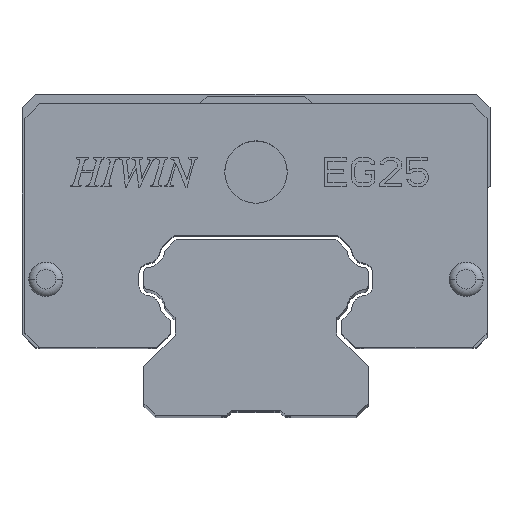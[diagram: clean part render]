
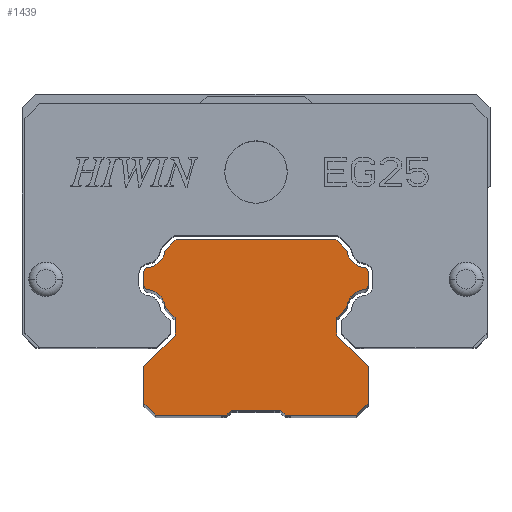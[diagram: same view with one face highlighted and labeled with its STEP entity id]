
A CAD part, top view. The second image highlights one B-rep face of the part: STEP entity #1439.
In plain terms, the highlighted planar face has unit normal (0, 0, 1).
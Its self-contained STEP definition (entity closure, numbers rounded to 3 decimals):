
#279=CARTESIAN_POINT('',(11.,-3.365,60.));
#280=DIRECTION('',(0.,0.,-1.));
#281=DIRECTION('',(0.12,0.993,0.));
#282=AXIS2_PLACEMENT_3D('',#279,#280,#281);
#284=DIRECTION('',(0.,-1.,0.));
#285=VECTOR('',#284,1.289);
#286=CARTESIAN_POINT('',(11.5,-3.365,60.));
#287=LINE('',#286,#285);
#288=CARTESIAN_POINT('',(11.,-4.654,60.));
#289=DIRECTION('',(0.,0.,-1.));
#290=DIRECTION('',(1.,0.,0.));
#291=AXIS2_PLACEMENT_3D('',#288,#289,#290);
#293=CARTESIAN_POINT('',(11.3,-7.136,60.));
#294=DIRECTION('',(0.,0.,1.));
#295=DIRECTION('',(-0.12,0.993,0.));
#296=AXIS2_PLACEMENT_3D('',#293,#294,#295);
#298=DIRECTION('',(-0.707,-0.707,0.));
#299=VECTOR('',#298,1.421);
#300=CARTESIAN_POINT('',(9.305,-6.995,60.));
#301=LINE('',#300,#299);
#302=DIRECTION('',(0.,-1.,0.));
#303=VECTOR('',#302,1.8);
#304=CARTESIAN_POINT('',(8.3,-8.,60.));
#305=LINE('',#304,#303);
#306=DIRECTION('',(0.707,-0.707,0.));
#307=VECTOR('',#306,4.525);
#308=CARTESIAN_POINT('',(8.3,-9.8,60.));
#309=LINE('',#308,#307);
#310=DIRECTION('',(0.,-1.,0.));
#311=VECTOR('',#310,3.8);
#312=CARTESIAN_POINT('',(11.5,-13.,60.));
#313=LINE('',#312,#311);
#314=DIRECTION('',(-0.707,-0.707,0.));
#315=VECTOR('',#314,1.697);
#316=CARTESIAN_POINT('',(11.5,-16.8,60.));
#317=LINE('',#316,#315);
#318=DIRECTION('',(-1.,0.,0.));
#319=VECTOR('',#318,7.3);
#320=CARTESIAN_POINT('',(10.3,-18.,60.));
#321=LINE('',#320,#319);
#322=DIRECTION('',(-0.707,0.707,0.));
#323=VECTOR('',#322,0.707);
#324=CARTESIAN_POINT('',(3.,-18.,60.));
#325=LINE('',#324,#323);
#326=DIRECTION('',(-1.,0.,0.));
#327=VECTOR('',#326,5.);
#328=CARTESIAN_POINT('',(2.5,-17.5,60.));
#329=LINE('',#328,#327);
#330=DIRECTION('',(-0.707,-0.707,0.));
#331=VECTOR('',#330,0.707);
#332=CARTESIAN_POINT('',(-2.5,-17.5,60.));
#333=LINE('',#332,#331);
#334=DIRECTION('',(-1.,0.,0.));
#335=VECTOR('',#334,7.3);
#336=CARTESIAN_POINT('',(-3.,-18.,60.));
#337=LINE('',#336,#335);
#338=DIRECTION('',(-0.707,0.707,0.));
#339=VECTOR('',#338,1.697);
#340=CARTESIAN_POINT('',(-10.3,-18.,60.));
#341=LINE('',#340,#339);
#342=DIRECTION('',(0.,1.,0.));
#343=VECTOR('',#342,3.8);
#344=CARTESIAN_POINT('',(-11.5,-16.8,60.));
#345=LINE('',#344,#343);
#346=DIRECTION('',(0.707,0.707,0.));
#347=VECTOR('',#346,4.525);
#348=CARTESIAN_POINT('',(-11.5,-13.,60.));
#349=LINE('',#348,#347);
#350=DIRECTION('',(0.,1.,0.));
#351=VECTOR('',#350,1.8);
#352=CARTESIAN_POINT('',(-8.3,-9.8,60.));
#353=LINE('',#352,#351);
#354=DIRECTION('',(-0.707,0.707,0.));
#355=VECTOR('',#354,1.421);
#356=CARTESIAN_POINT('',(-8.3,-8.,60.));
#357=LINE('',#356,#355);
#358=CARTESIAN_POINT('',(-11.3,-7.136,60.));
#359=DIRECTION('',(0.,0.,1.));
#360=DIRECTION('',(0.998,0.07,0.));
#361=AXIS2_PLACEMENT_3D('',#358,#359,#360);
#363=CARTESIAN_POINT('',(-11.,-4.654,60.));
#364=DIRECTION('',(0.,0.,-1.));
#365=DIRECTION('',(-0.12,-0.993,0.));
#366=AXIS2_PLACEMENT_3D('',#363,#364,#365);
#368=DIRECTION('',(0.,1.,0.));
#369=VECTOR('',#368,1.289);
#370=CARTESIAN_POINT('',(-11.5,-4.654,60.));
#371=LINE('',#370,#369);
#372=CARTESIAN_POINT('',(-11.,-3.365,60.));
#373=DIRECTION('',(0.,0.,-1.));
#374=DIRECTION('',(-1.,0.,0.));
#375=AXIS2_PLACEMENT_3D('',#372,#373,#374);
#377=CARTESIAN_POINT('',(-11.3,-0.883,60.));
#378=DIRECTION('',(0.,0.,1.));
#379=DIRECTION('',(0.12,-0.993,0.));
#380=AXIS2_PLACEMENT_3D('',#377,#378,#379);
#382=DIRECTION('',(0.707,0.707,0.));
#383=VECTOR('',#382,1.581);
#384=CARTESIAN_POINT('',(-9.314,-1.118,60.));
#385=LINE('',#384,#383);
#386=DIRECTION('',(1.,0.,0.));
#387=VECTOR('',#386,16.392);
#388=CARTESIAN_POINT('',(-8.196,0.,60.));
#389=LINE('',#388,#387);
#390=DIRECTION('',(0.707,-0.707,0.));
#391=VECTOR('',#390,1.581);
#392=CARTESIAN_POINT('',(8.196,0.,60.));
#393=LINE('',#392,#391);
#394=CARTESIAN_POINT('',(11.3,-0.883,60.));
#395=DIRECTION('',(0.,0.,1.));
#396=DIRECTION('',(-0.993,-0.118,0.));
#397=AXIS2_PLACEMENT_3D('',#394,#395,#396);
#869=CARTESIAN_POINT('',(-8.3,-9.8,60.));
#870=VERTEX_POINT('',#869);
#871=CARTESIAN_POINT('',(-11.5,-13.,60.));
#872=VERTEX_POINT('',#871);
#873=CARTESIAN_POINT('',(-8.3,-8.,60.));
#874=VERTEX_POINT('',#873);
#875=CARTESIAN_POINT('',(-9.305,-6.995,60.));
#876=VERTEX_POINT('',#875);
#877=CARTESIAN_POINT('',(-11.06,-5.15,60.));
#878=VERTEX_POINT('',#877);
#879=CARTESIAN_POINT('',(-11.5,-4.654,60.));
#880=VERTEX_POINT('',#879);
#881=CARTESIAN_POINT('',(-11.5,-3.365,60.));
#882=VERTEX_POINT('',#881);
#883=CARTESIAN_POINT('',(-11.06,-2.868,60.));
#884=VERTEX_POINT('',#883);
#885=CARTESIAN_POINT('',(-9.314,-1.118,60.));
#886=VERTEX_POINT('',#885);
#887=CARTESIAN_POINT('',(-8.196,0.,60.));
#888=VERTEX_POINT('',#887);
#889=CARTESIAN_POINT('',(8.196,0.,60.));
#890=VERTEX_POINT('',#889);
#891=CARTESIAN_POINT('',(2.5,-17.5,60.));
#892=CARTESIAN_POINT('',(-2.5,-17.5,60.));
#893=VERTEX_POINT('',#891);
#894=VERTEX_POINT('',#892);
#895=CARTESIAN_POINT('',(-3.,-18.,60.));
#896=VERTEX_POINT('',#895);
#897=CARTESIAN_POINT('',(-10.3,-18.,60.));
#898=VERTEX_POINT('',#897);
#899=CARTESIAN_POINT('',(10.3,-18.,60.));
#900=CARTESIAN_POINT('',(3.,-18.,60.));
#901=VERTEX_POINT('',#899);
#902=VERTEX_POINT('',#900);
#903=CARTESIAN_POINT('',(11.06,-2.868,60.));
#904=CARTESIAN_POINT('',(11.5,-3.365,60.));
#905=VERTEX_POINT('',#903);
#906=VERTEX_POINT('',#904);
#907=CARTESIAN_POINT('',(11.5,-4.654,60.));
#908=VERTEX_POINT('',#907);
#909=CARTESIAN_POINT('',(11.06,-5.15,60.));
#910=VERTEX_POINT('',#909);
#911=CARTESIAN_POINT('',(9.305,-6.995,60.));
#912=VERTEX_POINT('',#911);
#913=CARTESIAN_POINT('',(8.3,-8.,60.));
#914=VERTEX_POINT('',#913);
#915=CARTESIAN_POINT('',(8.3,-9.8,60.));
#916=VERTEX_POINT('',#915);
#917=CARTESIAN_POINT('',(11.5,-13.,60.));
#918=VERTEX_POINT('',#917);
#919=CARTESIAN_POINT('',(11.5,-16.8,60.));
#920=VERTEX_POINT('',#919);
#921=CARTESIAN_POINT('',(-11.5,-16.8,60.));
#922=VERTEX_POINT('',#921);
#923=CARTESIAN_POINT('',(9.314,-1.118,60.));
#924=VERTEX_POINT('',#923);
#1396=CARTESIAN_POINT('',(-36.5,15.,60.));
#1397=DIRECTION('',(0.,0.,1.));
#1398=DIRECTION('',(1.,0.,0.));
#1399=AXIS2_PLACEMENT_3D('',#1396,#1397,#1398);
#1400=PLANE('',#1399);
#1401=ORIENTED_EDGE('',*,*,#1221,.T.);
#1402=ORIENTED_EDGE('',*,*,#1242,.T.);
#1403=ORIENTED_EDGE('',*,*,#1263,.T.);
#1404=ORIENTED_EDGE('',*,*,#1282,.T.);
#1405=ORIENTED_EDGE('',*,*,#1299,.T.);
#1406=ORIENTED_EDGE('',*,*,#1314,.T.);
#1407=ORIENTED_EDGE('',*,*,#1332,.T.);
#1409=ORIENTED_EDGE('',*,*,#1408,.T.);
#1411=ORIENTED_EDGE('',*,*,#1410,.T.);
#1413=ORIENTED_EDGE('',*,*,#1412,.T.);
#1415=ORIENTED_EDGE('',*,*,#1414,.T.);
#1417=ORIENTED_EDGE('',*,*,#1416,.T.);
#1419=ORIENTED_EDGE('',*,*,#1418,.T.);
#1421=ORIENTED_EDGE('',*,*,#1420,.T.);
#1423=ORIENTED_EDGE('',*,*,#1422,.T.);
#1424=ORIENTED_EDGE('',*,*,#1389,.T.);
#1425=ORIENTED_EDGE('',*,*,#992,.T.);
#1426=ORIENTED_EDGE('',*,*,#1008,.T.);
#1427=ORIENTED_EDGE('',*,*,#1023,.T.);
#1428=ORIENTED_EDGE('',*,*,#1040,.T.);
#1429=ORIENTED_EDGE('',*,*,#1059,.T.);
#1430=ORIENTED_EDGE('',*,*,#1080,.T.);
#1431=ORIENTED_EDGE('',*,*,#1101,.T.);
#1432=ORIENTED_EDGE('',*,*,#1120,.T.);
#1433=ORIENTED_EDGE('',*,*,#1137,.T.);
#1434=ORIENTED_EDGE('',*,*,#1152,.T.);
#1435=ORIENTED_EDGE('',*,*,#1185,.T.);
#1436=ORIENTED_EDGE('',*,*,#1202,.T.);
#1437=EDGE_LOOP('',(#1401,#1402,#1403,#1404,#1405,#1406,#1407,#1409,#1411,#1413,
#1415,#1417,#1419,#1421,#1423,#1424,#1425,#1426,#1427,#1428,#1429,#1430,#1431,
#1432,#1433,#1434,#1435,#1436));
#1438=FACE_OUTER_BOUND('',#1437,.F.);
#1439=ADVANCED_FACE('',(#1438),#1400,.T.);
#283=CIRCLE('',#282,0.5);
#292=CIRCLE('',#291,0.5);
#297=CIRCLE('',#296,2.);
#362=CIRCLE('',#361,2.);
#367=CIRCLE('',#366,0.5);
#376=CIRCLE('',#375,0.5);
#381=CIRCLE('',#380,2.);
#398=CIRCLE('',#397,2.);
#992=EDGE_CURVE('',#872,#870,#349,.T.);
#1008=EDGE_CURVE('',#870,#874,#353,.T.);
#1023=EDGE_CURVE('',#874,#876,#357,.T.);
#1040=EDGE_CURVE('',#876,#878,#362,.T.);
#1059=EDGE_CURVE('',#878,#880,#367,.T.);
#1080=EDGE_CURVE('',#880,#882,#371,.T.);
#1101=EDGE_CURVE('',#882,#884,#376,.T.);
#1120=EDGE_CURVE('',#884,#886,#381,.T.);
#1137=EDGE_CURVE('',#886,#888,#385,.T.);
#1152=EDGE_CURVE('',#888,#890,#389,.T.);
#1185=EDGE_CURVE('',#890,#924,#393,.T.);
#1202=EDGE_CURVE('',#924,#905,#398,.T.);
#1221=EDGE_CURVE('',#905,#906,#283,.T.);
#1242=EDGE_CURVE('',#906,#908,#287,.T.);
#1263=EDGE_CURVE('',#908,#910,#292,.T.);
#1282=EDGE_CURVE('',#910,#912,#297,.T.);
#1299=EDGE_CURVE('',#912,#914,#301,.T.);
#1314=EDGE_CURVE('',#914,#916,#305,.T.);
#1332=EDGE_CURVE('',#916,#918,#309,.T.);
#1389=EDGE_CURVE('',#922,#872,#345,.T.);
#1408=EDGE_CURVE('',#918,#920,#313,.T.);
#1410=EDGE_CURVE('',#920,#901,#317,.T.);
#1412=EDGE_CURVE('',#901,#902,#321,.T.);
#1414=EDGE_CURVE('',#902,#893,#325,.T.);
#1416=EDGE_CURVE('',#893,#894,#329,.T.);
#1418=EDGE_CURVE('',#894,#896,#333,.T.);
#1420=EDGE_CURVE('',#896,#898,#337,.T.);
#1422=EDGE_CURVE('',#898,#922,#341,.T.);
